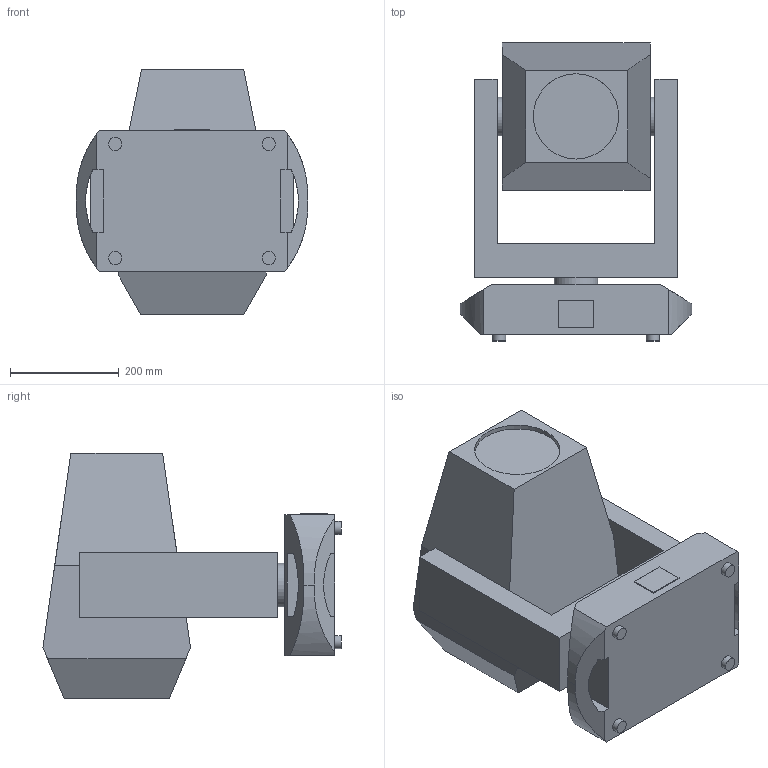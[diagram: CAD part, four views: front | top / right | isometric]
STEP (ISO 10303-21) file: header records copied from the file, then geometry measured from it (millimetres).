
FILE_DESCRIPTION(/* description */ (''),/* implementation_level */ '2;1');
FILE_NAME(/* name */ 'MAVERICKFORCE2SOLOWASH_90.stp',/* time_stamp */ '2025-05-02T15:08:17-04:00',/* author */ ('chenry'),/* organization */ (''),/* preprocessor_version */ 'ST-DEVELOPER v20',/* originating_system */ 'Autodesk Inventor 2024',/* authorisation */ '');
FILE_SCHEMA (('AUTOMOTIVE_DESIGN { 1 0 10303 214 3 1 1 }'));
Length unit declared in the file: millimetre
Products named in the file (4): M-480W-00-00_ASM; base; arm; head
Assembly tree (3 placements, depth 2):
  M-480W-00-00_ASM
    base
    arm
    head
Bounding box: 425.44 x 548.77 x 452.37 mm (x, y, z)
Volume: 39568411.5 mm3; surface area: 1200561.6 mm2
Topology: 3 solids, 3 shells, 69 faces, 162 edges, 108 vertices
Faces by surface type: plane 51, cylinder 18
Full cylindrical faces by diameter (mm): 24.037 x4, 70.711 x3, 80.349 x2, 157 x1
Entity records: 2156 total; most frequent: DIRECTION 354, CARTESIAN_POINT 346, ORIENTED_EDGE 324, EDGE_CURVE 162, LINE 122, VECTOR 122, AXIS2_PLACEMENT_3D 116, VERTEX_POINT 108
